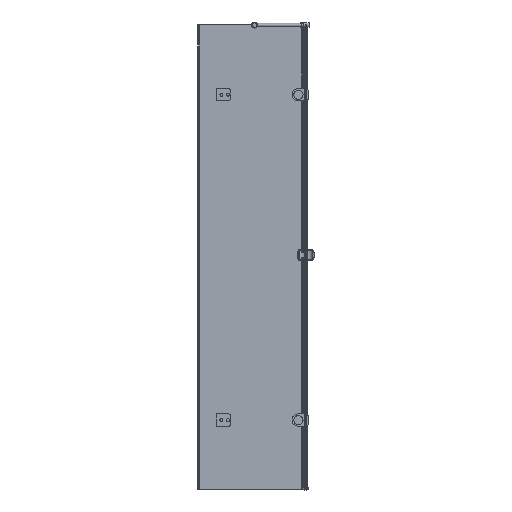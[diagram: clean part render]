
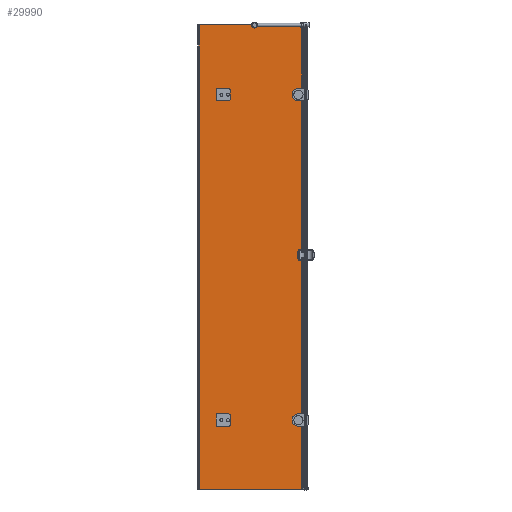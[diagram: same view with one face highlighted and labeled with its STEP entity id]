
A CAD part, left-side view. The second image highlights one B-rep face of the part: STEP entity #29990.
In plain terms, the highlighted planar face has unit normal (-1, 0, 0).
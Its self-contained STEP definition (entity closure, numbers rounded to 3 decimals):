
#497=LINE($,#41370,#3014);
#1819=LINE($,#62086,#4336);
#1822=LINE($,#62095,#4339);
#1824=LINE($,#62098,#4341);
#1825=LINE($,#62100,#4342);
#1826=LINE($,#62101,#4343);
#1880=LINE($,#62305,#4397);
#1894=LINE($,#62376,#4411);
#2623=LINE($,#64645,#5140);
#2624=LINE($,#64647,#5141);
#2625=LINE($,#64651,#5142);
#2626=LINE($,#64655,#5143);
#2627=LINE($,#64656,#5144);
#2628=LINE($,#64658,#5145);
#2629=LINE($,#64659,#5146);
#3014=VECTOR($,#33242,441.4);
#4336=VECTOR($,#37442,40.);
#4339=VECTOR($,#37451,40.);
#4341=VECTOR($,#37455,34.);
#4342=VECTOR($,#37458,26.);
#4343=VECTOR($,#37459,26.);
#4397=VECTOR($,#37599,1.019);
#4411=VECTOR($,#37639,1998.);
#5140=VECTOR($,#39574,26.);
#5141=VECTOR($,#39575,40.);
#5142=VECTOR($,#39578,34.);
#5143=VECTOR($,#39581,40.);
#5144=VECTOR($,#39582,26.);
#5145=VECTOR($,#39583,2000.);
#5146=VECTOR($,#39584,440.419);
#6633=PLANE($,#32509);
#6984=FACE_BOUND($,#10168,.T.);
#6985=FACE_BOUND($,#10169,.T.);
#6986=FACE_BOUND($,#10170,.T.);
#10168=EDGE_LOOP($,(#25107,#25108,#25109,#25110,#25111,#25112,#25113));
#10169=EDGE_LOOP($,(#25114,#25115,#25116,#25117,#25118,#25119,#25120));
#10170=EDGE_LOOP($,(#25121,#25122,#25123,#25124,#25125,#25126));
#11264=CIRCLE($,#31844,9.);
#11265=CIRCLE($,#31847,9.);
#11415=CIRCLE($,#32280,2.);
#11453=CIRCLE($,#32510,9.);
#11454=CIRCLE($,#32511,9.);
#11765=VERTEX_POINT($,#41367);
#11766=VERTEX_POINT($,#41369);
#13245=VERTEX_POINT($,#61955);
#13287=VERTEX_POINT($,#62078);
#13288=VERTEX_POINT($,#62079);
#13289=VERTEX_POINT($,#62084);
#13290=VERTEX_POINT($,#62088);
#13291=VERTEX_POINT($,#62089);
#13292=VERTEX_POINT($,#62094);
#13348=VERTEX_POINT($,#62294);
#13353=VERTEX_POINT($,#62303);
#13709=VERTEX_POINT($,#63762);
#13863=VERTEX_POINT($,#64643);
#13864=VERTEX_POINT($,#64644);
#13865=VERTEX_POINT($,#64646);
#13866=VERTEX_POINT($,#64648);
#13867=VERTEX_POINT($,#64650);
#13868=VERTEX_POINT($,#64652);
#13869=VERTEX_POINT($,#64654);
#13870=VERTEX_POINT($,#64657);
#14390=EDGE_CURVE($,#11766,#11765,#497,.T.);
#16656=EDGE_CURVE($,#13287,#13288,#11264,.T.);
#16660=EDGE_CURVE($,#13288,#13289,#1819,.T.);
#16661=EDGE_CURVE($,#13290,#13291,#11265,.T.);
#16664=EDGE_CURVE($,#13292,#13290,#1822,.T.);
#16666=EDGE_CURVE($,#13291,#13287,#1824,.T.);
#16667=EDGE_CURVE($,#13245,#13292,#1825,.T.);
#16668=EDGE_CURVE($,#13289,#13245,#1826,.T.);
#16748=EDGE_CURVE($,#13348,#13353,#1880,.T.);
#16770=EDGE_CURVE($,#11766,#13353,#1894,.T.);
#17368=EDGE_CURVE($,#13709,#13348,#11415,.T.);
#17703=EDGE_CURVE($,#13863,#13864,#2623,.T.);
#17704=EDGE_CURVE($,#13864,#13865,#2624,.T.);
#17705=EDGE_CURVE($,#13865,#13866,#11453,.T.);
#17706=EDGE_CURVE($,#13866,#13867,#2625,.T.);
#17707=EDGE_CURVE($,#13867,#13868,#11454,.T.);
#17708=EDGE_CURVE($,#13868,#13869,#2626,.T.);
#17709=EDGE_CURVE($,#13869,#13863,#2627,.T.);
#17710=EDGE_CURVE($,#11765,#13870,#2628,.T.);
#17711=EDGE_CURVE($,#13709,#13870,#2629,.T.);
#25107=ORIENTED_EDGE($,*,*,#17703,.T.);
#25108=ORIENTED_EDGE($,*,*,#17704,.T.);
#25109=ORIENTED_EDGE($,*,*,#17705,.T.);
#25110=ORIENTED_EDGE($,*,*,#17706,.T.);
#25111=ORIENTED_EDGE($,*,*,#17707,.T.);
#25112=ORIENTED_EDGE($,*,*,#17708,.T.);
#25113=ORIENTED_EDGE($,*,*,#17709,.T.);
#25114=ORIENTED_EDGE($,*,*,#16667,.T.);
#25115=ORIENTED_EDGE($,*,*,#16664,.T.);
#25116=ORIENTED_EDGE($,*,*,#16661,.T.);
#25117=ORIENTED_EDGE($,*,*,#16666,.T.);
#25118=ORIENTED_EDGE($,*,*,#16656,.T.);
#25119=ORIENTED_EDGE($,*,*,#16660,.T.);
#25120=ORIENTED_EDGE($,*,*,#16668,.T.);
#25121=ORIENTED_EDGE($,*,*,#16770,.F.);
#25122=ORIENTED_EDGE($,*,*,#14390,.T.);
#25123=ORIENTED_EDGE($,*,*,#17710,.T.);
#25124=ORIENTED_EDGE($,*,*,#17711,.F.);
#25125=ORIENTED_EDGE($,*,*,#17368,.T.);
#25126=ORIENTED_EDGE($,*,*,#16748,.T.);
#29990=ADVANCED_FACE($,(#6984,#6985,#6986),#6633,.T.);
#31844=AXIS2_PLACEMENT_3D($,#62080,#37435,#37436);
#31847=AXIS2_PLACEMENT_3D($,#62090,#37445,#37446);
#32280=AXIS2_PLACEMENT_3D($,#63866,#38824,#38825);
#32509=AXIS2_PLACEMENT_3D($,#64642,#39572,#39573);
#32510=AXIS2_PLACEMENT_3D($,#64649,#39576,#39577);
#32511=AXIS2_PLACEMENT_3D($,#64653,#39579,#39580);
#33242=DIRECTION($,(0.,1.,0.));
#37435=DIRECTION('center_axis',(1.,0.,0.));
#37436=DIRECTION('ref_axis',(0.,-0.707,-0.707));
#37442=DIRECTION($,(0.,1.,0.));
#37445=DIRECTION('center_axis',(1.,0.,0.));
#37446=DIRECTION('ref_axis',(0.,-0.707,0.707));
#37451=DIRECTION($,(0.,-1.,0.));
#37455=DIRECTION($,(0.,0.,-1.));
#37458=DIRECTION($,(0.,0.,1.));
#37459=DIRECTION($,(0.,0.,1.));
#37599=DIRECTION($,(0.,1.,0.));
#37639=DIRECTION($,(0.,0.,-1.));
#38824=DIRECTION('center_axis',(1.,0.,0.));
#38825=DIRECTION('ref_axis',(0.,0.707,0.707));
#39572=DIRECTION('center_axis',(-1.,0.,0.));
#39573=DIRECTION('ref_axis',(0.,1.,0.));
#39574=DIRECTION($,(0.,0.,1.));
#39575=DIRECTION($,(0.,-1.,0.));
#39576=DIRECTION('center_axis',(1.,0.,0.));
#39577=DIRECTION('ref_axis',(0.,-0.707,
0.707));
#39578=DIRECTION($,(0.,0.,-1.));
#39579=DIRECTION('center_axis',(1.,0.,0.));
#39580=DIRECTION('ref_axis',(0.,-0.707,
-0.707));
#39581=DIRECTION($,(0.,1.,0.));
#39582=DIRECTION($,(0.,0.,1.));
#39583=DIRECTION($,(0.,0.,-1.));
#39584=DIRECTION($,(0.,1.,0.));
#41367=CARTESIAN_POINT('',(1378.59,366.875,1485.944));
#41369=CARTESIAN_POINT('',(1378.59,-74.525,1485.944));
#41370=CARTESIAN_POINT($,(1378.59,-79.125,1485.944));
#61955=CARTESIAN_POINT('',(1378.59,283.875,1185.944));
#62078=CARTESIAN_POINT('',(1378.59,234.875,1168.944));
#62079=CARTESIAN_POINT('',(1378.59,243.875,1159.944));
#62080=CARTESIAN_POINT('Origin',(1378.59,243.875,1168.944));
#62084=CARTESIAN_POINT('',(1378.59,283.875,1159.944));
#62086=CARTESIAN_POINT($,(1378.59,102.375,1159.944));
#62088=CARTESIAN_POINT('',(1378.59,243.875,1211.944));
#62089=CARTESIAN_POINT('',(1378.59,234.875,1202.944));
#62090=CARTESIAN_POINT('Origin',(1378.59,243.875,1202.944));
#62094=CARTESIAN_POINT('',(1378.59,283.875,1211.944));
#62095=CARTESIAN_POINT($,(1378.59,90.875,1211.944));
#62098=CARTESIAN_POINT($,(1378.59,234.875,1348.944));
#62100=CARTESIAN_POINT($,(1378.59,283.875,1348.944));
#62101=CARTESIAN_POINT($,(1378.59,283.875,1348.944));
#62294=CARTESIAN_POINT('',(1378.59,-75.544,-512.056));
#62303=CARTESIAN_POINT('',(1378.59,-74.525,-512.056));
#62305=CARTESIAN_POINT($,(1378.59,-78.532,-512.056));
#62376=CARTESIAN_POINT($,(1378.59,-74.525,1485.944));
#63762=CARTESIAN_POINT('',(1378.59,-73.544,-514.056));
#63866=CARTESIAN_POINT('Origin',(1378.59,-75.544,-514.056));
#64642=CARTESIAN_POINT('Origin',(1378.59,-79.125,1485.944));
#64643=CARTESIAN_POINT('',(1378.59,283.875,-214.056));
#64644=CARTESIAN_POINT('',(1378.59,283.875,-188.056));
#64645=CARTESIAN_POINT($,(1378.59,283.875,648.944));
#64646=CARTESIAN_POINT('',(1378.59,243.875,-188.056));
#64647=CARTESIAN_POINT($,(1378.59,90.875,-188.056));
#64648=CARTESIAN_POINT('',(1378.59,234.875,-197.056));
#64649=CARTESIAN_POINT('Origin',(1378.59,243.875,-197.056));
#64650=CARTESIAN_POINT('',(1378.59,234.875,-231.056));
#64651=CARTESIAN_POINT($,(1378.59,234.875,648.944));
#64652=CARTESIAN_POINT('',(1378.59,243.875,-240.056));
#64653=CARTESIAN_POINT('Origin',(1378.59,243.875,-231.056));
#64654=CARTESIAN_POINT('',(1378.59,283.875,-240.056));
#64655=CARTESIAN_POINT($,(1378.59,102.375,-240.056));
#64656=CARTESIAN_POINT($,(1378.59,283.875,648.944));
#64657=CARTESIAN_POINT('',(1378.59,366.875,-514.056));
#64658=CARTESIAN_POINT($,(1378.59,366.875,485.944));
#64659=CARTESIAN_POINT($,(1378.59,-79.125,-514.056));
